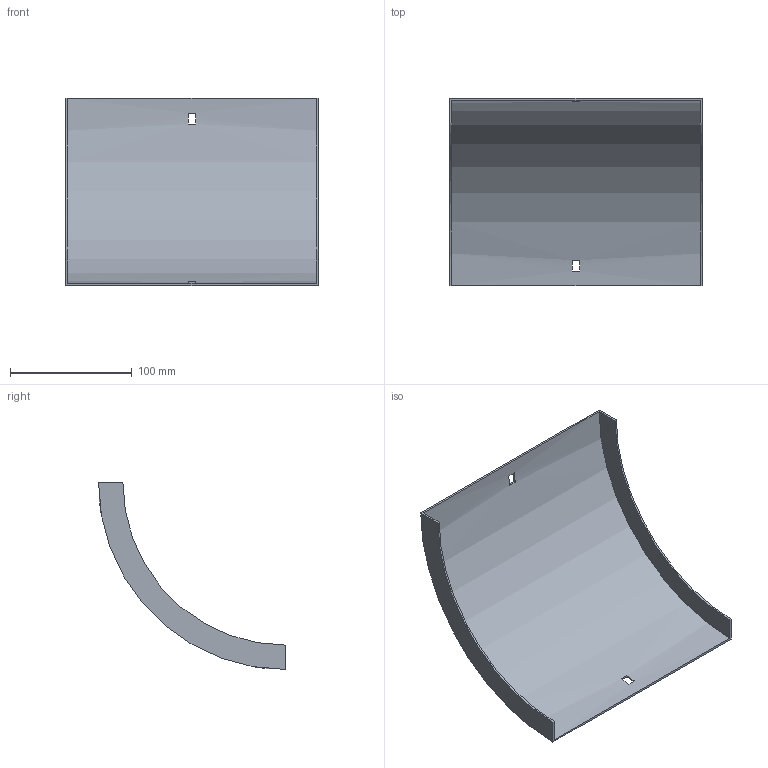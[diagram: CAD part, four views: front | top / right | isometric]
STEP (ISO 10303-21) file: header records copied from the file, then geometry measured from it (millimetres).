
FILE_DESCRIPTION (( 'STEP AP214' ), '1' );
FILE_NAME ('33N1B200.step', '2025-02-21T09:18:03', ( '' ), ( '' ), 'SwSTEP 2.0', 'SolidWorks 2023', '' );
FILE_SCHEMA (( 'AUTOMOTIVE_DESIGN' ));
Length unit declared in the file: millimetre
Products named in the file (1): 33N1B200
Bounding box: 207 x 153.5 x 153.5 mm (x, y, z)
Volume: 86769.4 mm3; surface area: 117150.7 mm2
Topology: 1 solids, 1 shells, 18 faces, 48 edges, 32 vertices
Faces by surface type: plane 14, cylinder 4
Entity records: 599 total; most frequent: DIRECTION 102, CARTESIAN_POINT 99, ORIENTED_EDGE 96, EDGE_CURVE 48, AXIS2_PLACEMENT_3D 35, LINE 32, VERTEX_POINT 32, VECTOR 32
